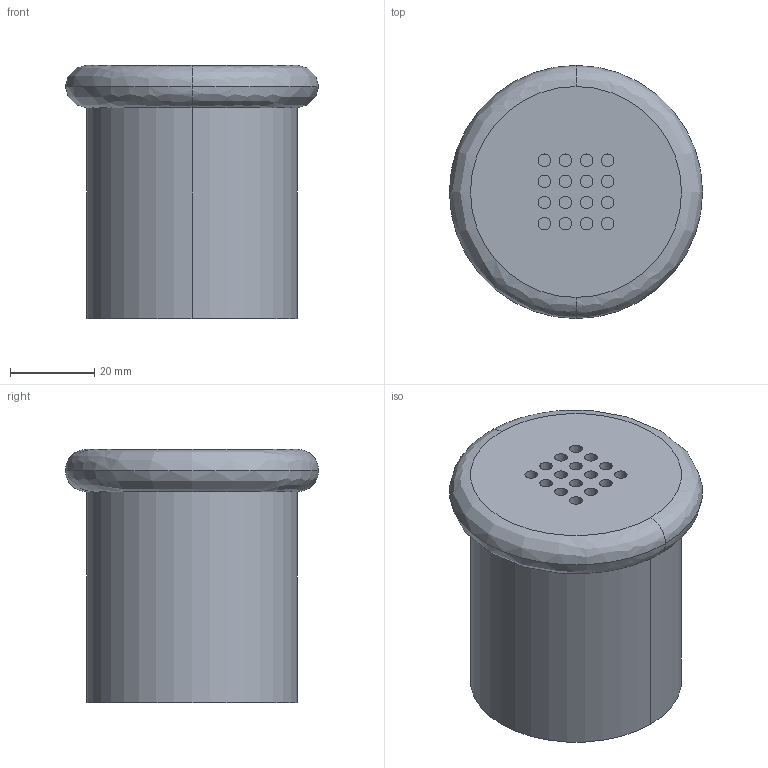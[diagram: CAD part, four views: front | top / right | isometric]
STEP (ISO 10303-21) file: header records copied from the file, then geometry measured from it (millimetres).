
FILE_DESCRIPTION (( 'STEP AP214' ), '1' );
FILE_NAME ('Gewuerzstreuer_68314.STEP', '2010-10-27T05:39:50', ( 'grass' ), ( '' ), 'SwSTEP 2.0', 'SolidWorks 2010', '' );
FILE_SCHEMA (( 'AUTOMOTIVE_DESIGN' ));
Length unit declared in the file: millimetre
Products named in the file (1): Gewuerzstreuer_68314
Bounding box: 60 x 60 x 60 mm (x, y, z)
Volume: 123936.3 mm3; surface area: 15316.5 mm2
Topology: 1 solids, 1 shells, 56 faces, 110 edges, 72 vertices
Faces by surface type: cylinder 34, plane 18, bspline 4
Entity records: 2172 total; most frequent: CARTESIAN_POINT 299, DIRECTION 292, ORIENTED_EDGE 220, AXIS2_PLACEMENT_3D 129, EDGE_CURVE 110, CIRCLE 76, EDGE_LOOP 72, VERTEX_POINT 72
